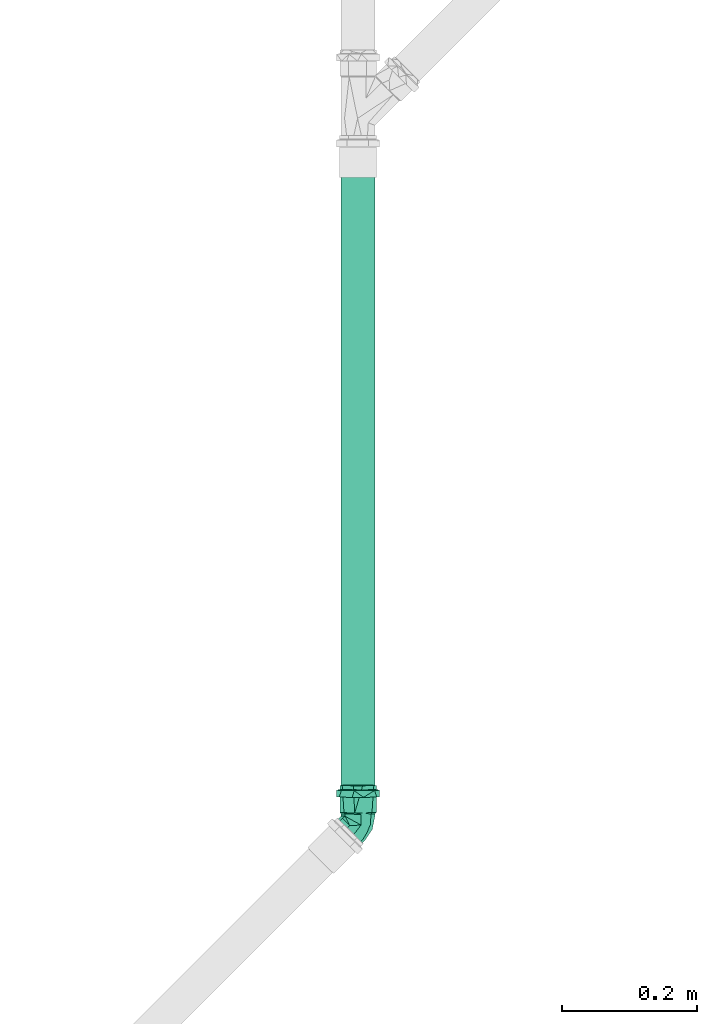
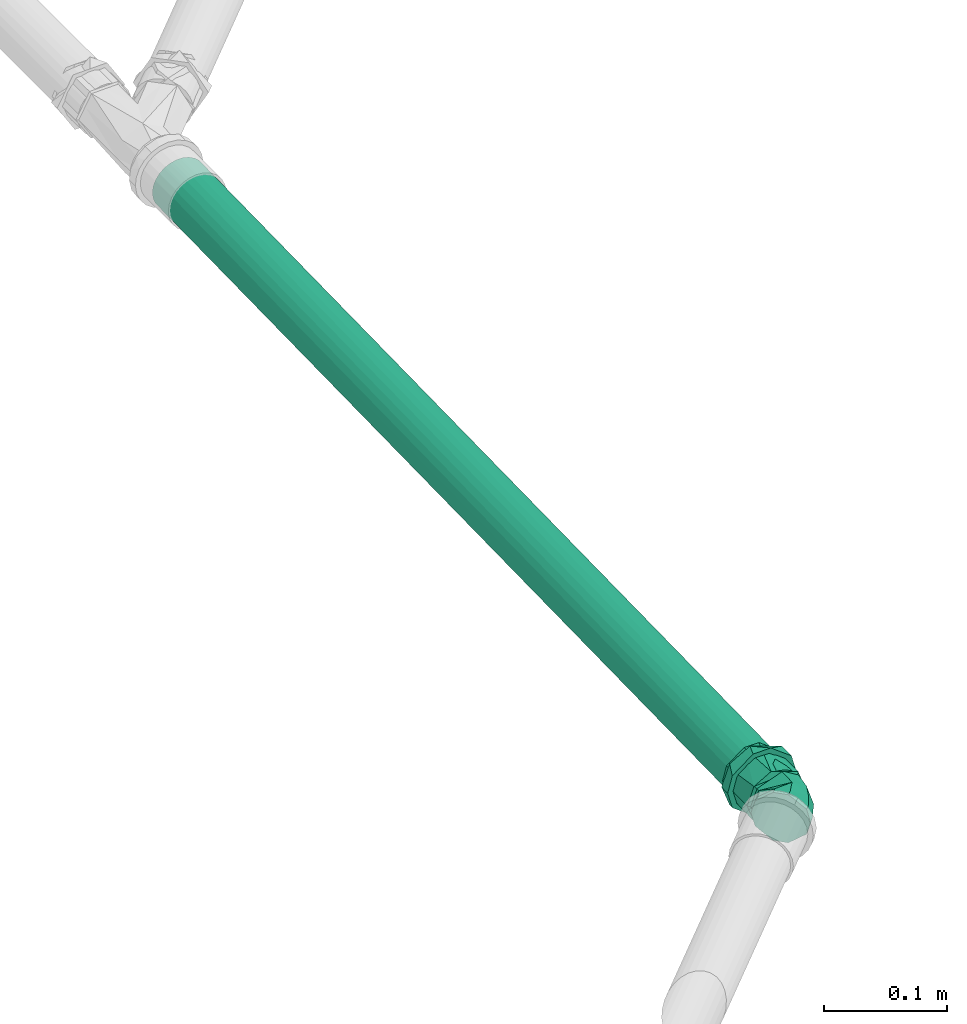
# One storey, part 142 of 589: 1 flow fitting, 1 flow segment.
"""IFC2X3 building model written with IfcOpenShell, lengths in millimetres."""

import ifcopenshell
import ifcopenshell.guid

model = None  # the IFC model being written
_history = None  # IfcOwnerHistory: only IFC2X3 demands one
_inside = {}  # id of a spatial element -> (the spatial element, [elements in it])
_under = {}  # id of a project, library or spatial element -> (it, [spatial elements below it])
_declared = {}  # id of a project -> (the project, [libraries it declares])
_typed = {}  # id of a type object -> (the type object, [elements of that type])
_made_of = {}  # id of a material, layer set ... -> (it, [elements and type objects made of it])


def new_model(schema):
    """Start an empty IFC model of exactly this schema.

    Asked for "IFC4X3", IfcOpenShell would pick the latest addendum, in which some entities
    have other attributes; the version numbers below select the first issue.
    IFC2X3 requires an IfcOwnerHistory on every rooted entity: one is made here for all.
    """
    global model, _history
    if schema == "IFC4X3":
        model = ifcopenshell.file(schema_version=(4, 3, 0, 0))
    else:
        model = ifcopenshell.file(schema=schema)
    _inside.clear()
    _under.clear()
    _declared.clear()
    _typed.clear()
    _made_of.clear()
    _history = None
    if model.schema == "IFC2X3":
        org = make("IfcOrganization", Name="unknown")
        user = make(
            "IfcPersonAndOrganization",
            ThePerson=make("IfcPerson", FamilyName="unknown"),
            TheOrganization=org,
        )
        app = make(
            "IfcApplication",
            ApplicationDeveloper=org,
            Version="unknown",
            ApplicationFullName="unknown",
            ApplicationIdentifier="unknown",
        )
        _history = make(
            "IfcOwnerHistory",
            OwningUser=user,
            OwningApplication=app,
            ChangeAction="ADDED",
            CreationDate=0,
        )
    return model


def make(cls, **values):
    """One entity of the class cls with the attributes given. An attribute that is None is left unset."""
    return model.create_entity(
        cls, **{name: value for name, value in values.items() if value is not None}
    )


def entity(cls, *values):
    """Any entity or typed value of the class cls, its attributes in the order of the schema. None: left unset."""
    e = model.create_entity(cls)
    for i, value in enumerate(values):
        if value is not None:
            e[i] = value
    return e


def rooted(cls, **values):
    """An entity with a GlobalId (a new one), such as an element, a storey or a relation."""
    return make(cls, GlobalId=ifcopenshell.guid.new(), OwnerHistory=_history, **values)


def si_unit(unit_type, name, prefix=None):
    """IfcSIUnit, for example si_unit("LENGTHUNIT", "METRE", prefix="MILLI")."""
    return make("IfcSIUnit", UnitType=unit_type, Prefix=prefix, Name=name)


def converted_unit(unit_type, name, factor, base, dimensions=None, offset=None):
    """IfcConversionBasedUnit, such as the inch: factor (a typed value) times the base unit."""
    return make(
        "IfcConversionBasedUnit"
        if offset is None
        else "IfcConversionBasedUnitWithOffset",
        ConversionOffset=offset,
        Dimensions=None
        if dimensions is None
        else entity("IfcDimensionalExponents", *dimensions),
        UnitType=unit_type,
        Name=name,
        ConversionFactor=make(
            "IfcMeasureWithUnit", ValueComponent=factor, UnitComponent=base
        ),
    )


def derived_unit(unit_type, elements):
    """IfcDerivedUnit: a product of units, each with its exponent."""
    return make(
        "IfcDerivedUnit",
        Elements=[
            make("IfcDerivedUnitElement", Unit=unit, Exponent=power)
            for unit, power in elements
        ],
        UnitType=unit_type,
    )


def assignment(units):
    """IfcUnitAssignment: the units of a project."""
    return None if units is None else make("IfcUnitAssignment", Units=units)


def point(xyz):
    """IfcCartesianPoint."""
    return None if xyz is None else make("IfcCartesianPoint", Coordinates=xyz)


def direction(xyz):
    """IfcDirection."""
    return None if xyz is None else make("IfcDirection", DirectionRatios=xyz)


def frame(location, z_axis=None, x_axis=None):
    """IfcAxis2Placement3D, a coordinate frame: its origin and axes. An axis left out is left unset."""
    return make(
        "IfcAxis2Placement3D",
        Location=point(location),
        Axis=direction(z_axis),
        RefDirection=direction(x_axis),
    )


def frame_2d(location, x_axis=None):
    """IfcAxis2Placement2D, a coordinate frame in the plane: its origin and x axis."""
    return make(
        "IfcAxis2Placement2D", Location=point(location), RefDirection=direction(x_axis)
    )


def origin():
    """The frame at (0, 0, 0) with its axes left unset."""
    return frame((0.0, 0.0, 0.0))


def origin_2d_with_axis():
    """The frame at (0, 0) in the plane with the x axis (1, 0) written out."""
    return frame_2d((0.0, 0.0), x_axis=(1.0, 0.0))


def place(relative_to, where):
    """IfcLocalPlacement: puts the frame where relative to a parent placement (None: the world)."""
    return make(
        "IfcLocalPlacement", PlacementRelTo=relative_to, RelativePlacement=where
    )


def context(
    kind, dimensions, precision=None, world=None, true_north=None, identifier=None
):
    """IfcGeometricRepresentationContext, for example the 3D "Model" context."""
    return make(
        "IfcGeometricRepresentationContext",
        ContextIdentifier=identifier,
        ContextType=kind,
        CoordinateSpaceDimension=dimensions,
        Precision=precision,
        WorldCoordinateSystem=world,
        TrueNorth=true_north,
    )


def subcontext(parent, identifier, kind, view, scale=None):
    """IfcGeometricRepresentationSubContext, for example "Body" below "Model"."""
    return make(
        "IfcGeometricRepresentationSubContext",
        ContextIdentifier=identifier,
        ContextType=kind,
        ParentContext=parent,
        TargetScale=scale,
        TargetView=view,
    )


def project(units=None, contexts=None):
    """IfcProject with its units and contexts."""
    return rooted(
        "IfcProject",
        Name="project",
        RepresentationContexts=contexts,
        UnitsInContext=assignment(units),
    )


def spatial(cls, under=None, at=None, **own):
    """A site, building, storey or space (cls), placed at a placement, below another one or the project."""
    s = rooted(cls, ObjectPlacement=at, **own)
    if under is not None:
        _under.setdefault(under.id(), (under, []))[1].append(s)
    return s


def profile(cls, at=None, kind="AREA", **sizes):
    """A parametric profile (cls). Its sizes go by their IFC names, for example OverallWidth=200.0."""
    return make(cls, ProfileType=kind, Position=at, **sizes)


def circle(**sizes):
    """IfcCircleProfileDef."""
    return profile("IfcCircleProfileDef", **sizes)


def extrude(swept, where, along, depth):
    """IfcExtrudedAreaSolid: the profile swept, set in the frame where, extruded along a direction by depth."""
    return make(
        "IfcExtrudedAreaSolid",
        SweptArea=swept,
        Position=where,
        ExtrudedDirection=direction(along),
        Depth=depth,
    )


def faces_of(points, faces, orient=None, outer=None):
    """IfcFace entities. A face is a list of loops; a loop is a list of indices into points, from 0.

    orient and outer hold one flag for each loop. By default every Orientation is true, the
    first loop of a face is its IfcFaceOuterBound and the others are IfcFaceBound.
    """
    made = []
    for i, loops in enumerate(faces):
        bounds = []
        for j, loop in enumerate(loops):
            is_outer = j == 0 if outer is None else outer[i][j]
            bounds.append(
                make(
                    "IfcFaceOuterBound" if is_outer else "IfcFaceBound",
                    Bound=make("IfcPolyLoop", Polygon=[points[k] for k in loop]),
                    Orientation=True if orient is None else orient[i][j],
                )
            )
        made.append(make("IfcFace", Bounds=bounds))
    return made


def faceted_brep(points, faces, orient=None, outer=None, voids=None):
    """IfcFacetedBrep: a solid bounded by flat faces; with voids (closed shells), ...WithVoids."""
    shared = [point(p) for p in points]
    hull = make("IfcClosedShell", CfsFaces=faces_of(shared, faces, orient, outer))
    if voids is None:
        return make("IfcFacetedBrep", Outer=hull)
    return make(
        "IfcFacetedBrepWithVoids",
        Outer=hull,
        Voids=[
            make(cls, CfsFaces=faces_of(shared, fs, o, b)) for cls, fs, o, b in voids
        ],
    )


def shape(context_of_items, identifier, shape_type, items):
    """IfcShapeRepresentation: the items that make up one representation, for example the "Body"."""
    return make(
        "IfcShapeRepresentation",
        ContextOfItems=context_of_items,
        RepresentationIdentifier=identifier,
        RepresentationType=shape_type,
        Items=items,
    )


def source(mapping_origin, context_of_items, identifier, shape_type, items):
    """IfcRepresentationMap: a shape defined once, which mapped items show again and again."""
    return make(
        "IfcRepresentationMap",
        MappingOrigin=mapping_origin,
        MappedRepresentation=shape(context_of_items, identifier, shape_type, items),
    )


def transform(
    local_origin,
    x_axis=None,
    y_axis=None,
    z_axis=None,
    scale=None,
    scale2=None,
    scale3=None,
    uniform=True,
):
    """IfcCartesianTransformationOperator3D, or its non-uniform kind. x_axis, y_axis, z_axis: its Axis1, 2, 3."""
    if uniform:
        return make(
            "IfcCartesianTransformationOperator3D",
            Axis1=direction(x_axis),
            Axis2=direction(y_axis),
            LocalOrigin=point(local_origin),
            Scale=scale,
            Axis3=direction(z_axis),
        )
    return make(
        "IfcCartesianTransformationOperator3DnonUniform",
        Axis1=direction(x_axis),
        Axis2=direction(y_axis),
        LocalOrigin=point(local_origin),
        Scale=scale,
        Axis3=direction(z_axis),
        Scale2=scale2,
        Scale3=scale3,
    )


def mapped(mapping_source, mapping_target):
    """IfcMappedItem: shows the shape of a source again, moved by a transform."""
    return make(
        "IfcMappedItem", MappingSource=mapping_source, MappingTarget=mapping_target
    )


def material(Name=None, Category=None):
    """IfcMaterial."""
    return make("IfcMaterial", Name=Name, Category=Category)


def made_of(thing, what):
    """Note that an element or type object is made of a material, layer set ...; save() writes the relation."""
    if what is not None:
        _made_of.setdefault(what.id(), (what, []))[1].append(thing)
    return thing


def type_object(cls, material=None, **own):
    """A type object (cls), such as IfcWallType, which elements share."""
    return made_of(rooted(cls, **own), material)


def type_shapes(of_type, sources):
    """Give a type object the sources (RepresentationMaps) that its elements show as mapped items."""
    of_type.RepresentationMaps = sources


def element(
    cls,
    number,
    at=None,
    inside=None,
    cuts=None,
    type_object=None,
    material=None,
    context=None,
    identifier="Body",
    shape_type=None,
    held_by="IfcProductDefinitionShape",
    body=None,
    shapes=None,
    **own,
):
    """One element of the class cls, such as IfcWall. Its Tag is "e" and its number.

    at: its placement. inside: the storey or other place that contains it. cuts: it is an
    opening in that element (IfcRelVoidsElement). A single representation is given by context,
    identifier, shape_type and body (its items); several are given by shapes. held_by: the class
    of the entity that holds the representations. save() writes the other relations.
    """
    e = rooted(cls, Tag="e%d" % number, ObjectPlacement=at, **own)
    if body is not None:
        shapes = [shape(context, identifier, shape_type, body)]
    if shapes is not None:
        e.Representation = make(held_by, Representations=shapes)
    if inside is not None:
        _inside.setdefault(inside.id(), (inside, []))[1].append(e)
    if cuts is not None:
        rooted(
            "IfcRelVoidsElement", RelatingBuildingElement=cuts, RelatedOpeningElement=e
        )
    if type_object is not None:
        _typed.setdefault(type_object.id(), (type_object, []))[1].append(e)
    return made_of(e, material)


def aggregate(whole, parts):
    """IfcRelAggregates: a whole, such as a stair, and the parts it consists of."""
    return rooted("IfcRelAggregates", RelatingObject=whole, RelatedObjects=parts)


def save(model, path):
    """Write the relations noted so far, then the file.

    IfcRelAggregates (storeys below a building ...), IfcRelContainedInSpatialStructure (elements
    in a storey), IfcRelDefinesByType, IfcRelAssociatesMaterial and IfcRelDeclares: one each for
    every whole, place, type object, material and project.
    """
    for whole, parts in _under.values():
        aggregate(whole, parts)
    for where, things in _inside.values():
        rooted(
            "IfcRelContainedInSpatialStructure",
            RelatedElements=things,
            RelatingStructure=where,
        )
    for kind, things in _typed.values():
        rooted("IfcRelDefinesByType", RelatedObjects=things, RelatingType=kind)
    for what, things in _made_of.values():
        rooted("IfcRelAssociatesMaterial", RelatedObjects=things, RelatingMaterial=what)
    for by, libraries in _declared.values():
        rooted("IfcRelDeclares", RelatingContext=by, RelatedDefinitions=libraries)
    model.write(path)


model = new_model("IFC2X3")

# Units and contexts
model_context = context("Model", 3, precision=0.01, world=origin(), true_north=direction((6.123031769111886e-17, 1.0)))
body_context = subcontext(model_context, "Body", "Model", "MODEL_VIEW")
ifc_project = project(units=[si_unit("LENGTHUNIT", "METRE", prefix="MILLI"), si_unit("AREAUNIT", "SQUARE_METRE"), si_unit("VOLUMEUNIT", "CUBIC_METRE"), converted_unit("PLANEANGLEUNIT", "DEGREE", entity("IfcRatioMeasure", 0.017453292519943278), si_unit("PLANEANGLEUNIT", "RADIAN"), dimensions=[0, 0, 0, 0, 0, 0, 0]), si_unit("MASSUNIT", "GRAM", prefix="KILO"), derived_unit("MASSDENSITYUNIT", [(si_unit("MASSUNIT", "GRAM", prefix="KILO"), 1), (si_unit("LENGTHUNIT", "METRE"), -3)]), derived_unit("IONCONCENTRATIONUNIT", [(si_unit("MASSUNIT", "GRAM", prefix="KILO"), 1), (si_unit("LENGTHUNIT", "METRE"), -3)]), derived_unit("MOMENTOFINERTIAUNIT", [(si_unit("LENGTHUNIT", "METRE"), 4)]), si_unit("TIMEUNIT", "SECOND"), si_unit("FREQUENCYUNIT", "HERTZ"), si_unit("THERMODYNAMICTEMPERATUREUNIT", "DEGREE_CELSIUS"), derived_unit("THERMALTRANSMITTANCEUNIT", [(si_unit("MASSUNIT", "GRAM", prefix="KILO"), 1), (si_unit("THERMODYNAMICTEMPERATUREUNIT", "KELVIN"), -1), (si_unit("TIMEUNIT", "SECOND"), -3)]), derived_unit("THERMALCONDUCTANCEUNIT", [(si_unit("MASSUNIT", "GRAM", prefix="KILO"), 1), (si_unit("THERMODYNAMICTEMPERATUREUNIT", "KELVIN"), -1), (si_unit("TIMEUNIT", "SECOND"), -3), (si_unit("LENGTHUNIT", "METRE"), 1)]), derived_unit("VOLUMETRICFLOWRATEUNIT", [(si_unit("LENGTHUNIT", "METRE"), 3), (si_unit("TIMEUNIT", "SECOND"), -1)]), derived_unit("MASSFLOWRATEUNIT", [(si_unit("MASSUNIT", "GRAM", prefix="KILO"), 1), (si_unit("TIMEUNIT", "SECOND"), -1)]), derived_unit("ROTATIONALFREQUENCYUNIT", [(si_unit("TIMEUNIT", "SECOND"), -1)]), si_unit("ELECTRICCURRENTUNIT", "AMPERE"), si_unit("ELECTRICVOLTAGEUNIT", "VOLT"), si_unit("POWERUNIT", "WATT"), si_unit("FORCEUNIT", "NEWTON", prefix="KILO"), si_unit("ILLUMINANCEUNIT", "LUX"), si_unit("LUMINOUSFLUXUNIT", "LUMEN"), si_unit("LUMINOUSINTENSITYUNIT", "CANDELA"), derived_unit("USERDEFINED", [(si_unit("MASSUNIT", "GRAM", prefix="KILO"), -1), (si_unit("LENGTHUNIT", "METRE"), -2), (si_unit("TIMEUNIT", "SECOND"), 3), (si_unit("LUMINOUSFLUXUNIT", "LUMEN"), 1)]), derived_unit("USERDEFINED", [(si_unit("MASSUNIT", "GRAM", prefix="KILO"), 1), (si_unit("TIMEUNIT", "SECOND"), -3), (si_unit("LENGTHUNIT", "METRE"), 3), (si_unit("ELECTRICCURRENTUNIT", "AMPERE"), -2)]), derived_unit("SOUNDPOWERUNIT", [(si_unit("MASSUNIT", "GRAM", prefix="KILO"), 1), (si_unit("TIMEUNIT", "SECOND"), -3), (si_unit("LENGTHUNIT", "METRE"), 2)]), derived_unit("SOUNDPRESSUREUNIT", [(si_unit("MASSUNIT", "GRAM", prefix="KILO"), 1), (si_unit("LENGTHUNIT", "METRE"), -1), (si_unit("TIMEUNIT", "SECOND"), -2)]), derived_unit("LINEARVELOCITYUNIT", [(si_unit("LENGTHUNIT", "METRE"), 1), (si_unit("TIMEUNIT", "SECOND"), -1)]), si_unit("PRESSUREUNIT", "PASCAL"), derived_unit("USERDEFINED", [(si_unit("MASSUNIT", "GRAM", prefix="KILO"), 1), (si_unit("LENGTHUNIT", "METRE"), -2), (si_unit("TIMEUNIT", "SECOND"), -2)]), derived_unit("LINEARFORCEUNIT", [(si_unit("MASSUNIT", "GRAM", prefix="KILO"), 1), (si_unit("TIMEUNIT", "SECOND"), -2)]), derived_unit("PLANARFORCEUNIT", [(si_unit("MASSUNIT", "GRAM", prefix="KILO"), 1), (si_unit("LENGTHUNIT", "METRE"), -1), (si_unit("TIMEUNIT", "SECOND"), -2)]), derived_unit("SPECIFICHEATCAPACITYUNIT", [(si_unit("THERMODYNAMICTEMPERATUREUNIT", "KELVIN"), -1), (si_unit("LENGTHUNIT", "METRE"), 2), (si_unit("TIMEUNIT", "SECOND"), -2)]), derived_unit("HEATINGVALUEUNIT", [(si_unit("LENGTHUNIT", "METRE"), 2), (si_unit("TIMEUNIT", "SECOND"), -2)]), derived_unit("VAPORPERMEABILITYUNIT", [(si_unit("LENGTHUNIT", "METRE"), -1), (si_unit("TIMEUNIT", "SECOND"), 1)]), derived_unit("DYNAMICVISCOSITYUNIT", [(si_unit("MASSUNIT", "GRAM", prefix="KILO"), 1), (si_unit("TIMEUNIT", "SECOND"), -1), (si_unit("LENGTHUNIT", "METRE"), -1)]), derived_unit("THERMALEXPANSIONCOEFFICIENTUNIT", [(si_unit("THERMODYNAMICTEMPERATUREUNIT", "KELVIN"), -1)]), derived_unit("MODULUSOFELASTICITYUNIT", [(si_unit("MASSUNIT", "GRAM", prefix="KILO"), 1), (si_unit("LENGTHUNIT", "METRE"), -1), (si_unit("TIMEUNIT", "SECOND"), -2)]), derived_unit("ISOTHERMALMOISTURECAPACITYUNIT", [(si_unit("LENGTHUNIT", "METRE"), 3), (si_unit("MASSUNIT", "GRAM", prefix="KILO"), -1)]), derived_unit("MOISTUREDIFFUSIVITYUNIT", [(si_unit("TIMEUNIT", "SECOND"), -1), (si_unit("LENGTHUNIT", "METRE"), 2)])], contexts=[model_context])

# Site, building, storey
site_placement = place(None, origin())
site = spatial("IfcSite", under=ifc_project, at=site_placement, Name="Default", CompositionType="ELEMENT")
building_placement = place(site_placement, origin())
building = spatial("IfcBuilding", under=site, at=building_placement, CompositionType="ELEMENT")
storey_placement = place(building_placement, frame((0.0, 0.0, 100.0)))
storey = spatial("IfcBuildingStorey", under=building, at=storey_placement, Name="TÉRREO", CompositionType="ELEMENT", Elevation=100.0)

# Flow segment
pipe_segment_type = type_object("IfcPipeSegmentType", Name="Tipos de tubos:PVC Esgoto Série Normal", PredefinedType="NOTDEFINED")
flow_segment_placement = place(storey_placement, origin())
element("IfcFlowSegment", 1, at=flow_segment_placement, inside=storey, type_object=pipe_segment_type, Name="Tipos de tubos:PVC Esgoto Série Normal", ObjectType="Tipos de tubos:PVC Esgoto Série Normal", context=body_context, shape_type="SweptSolid", body=[
    extrude(circle(Radius=25.0, at=origin_2d_with_axis()), frame((10266.454903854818, -10003.354001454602, -297.708808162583), z_axis=(0.0, 0.9998000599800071, 0.019996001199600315), x_axis=(-1.0, 0.0, 0.0)), (0.0, 0.0, 1.0), 968.9273788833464),
])

# Flow fitting
ifc_material = material(Name="PVC Série Normal")
pipe_fitting_type = type_object("IfcPipeFittingType", Name="PVC Esgoto_Joelho 45_90_Rodrigo MEP:a. Série Normal", PredefinedType="NOTDEFINED", material=ifc_material)
shared_shape = source(origin(), body_context, "Body", "Brep", [
    faceted_brep([(-15.967030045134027, -21.650635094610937, -12.500000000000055), (-15.967030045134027, -25.0, 0.0), (-15.967030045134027, -21.650635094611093, 12.499999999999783), (-15.967030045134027, -6.470476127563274, 24.148145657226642), (-15.967030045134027, 6.470476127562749, 24.14814565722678), (-15.967030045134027, 21.650635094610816, 12.500000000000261), (-15.967030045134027, 25.0, 0.0), (-15.967030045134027, 21.650635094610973, -12.499999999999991), (-15.967030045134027, 6.4704761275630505, -24.1481456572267), (-15.967030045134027, -6.4704761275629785, -24.14814565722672), (-10.767030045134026, 6.4704761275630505, -24.1481456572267), (-10.767030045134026, 21.650635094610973, -12.499999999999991), (-10.767030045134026, 25.0, 0.0), (-10.767030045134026, 21.650635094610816, 12.500000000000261), (-10.767030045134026, 6.470476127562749, 24.14814565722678), (-10.767030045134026, -6.470476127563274, 24.148145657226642), (-10.767030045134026, -21.650635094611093, 12.499999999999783), (-10.767030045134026, -25.0, 0.0), (-10.767030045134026, -21.650635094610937, -12.500000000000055), (-10.767030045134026, -6.4704761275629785, -24.14814565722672)], [[[0, 1, 2, 3, 4, 5, 6, 7, 8, 9]], [[10, 11, 12, 13, 14, 15, 16, 17, 18, 19]], [[1, 17, 16, 2]], [[2, 16, 15, 3]], [[15, 14, 4, 3]], [[4, 14, 13, 5]], [[5, 13, 12, 6]], [[6, 12, 11, 7]], [[7, 11, 10, 8]], [[10, 19, 9, 8]], [[9, 19, 18, 0]], [[0, 18, 17, 1]]]),
    faceted_brep([(32.49893906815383, 22.607125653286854, -26.079997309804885), (22.61789019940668, 32.49144831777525, -26.079997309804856), (21.702978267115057, 33.406663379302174, -30.90962644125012), (33.41385100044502, 21.691910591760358, -30.90962644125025), (44.08973158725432, 11.012492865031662, -13.500000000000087), (7.965742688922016, 47.14845038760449, -16.0), (11.027097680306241, 44.08608110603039, -13.499999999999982), (8.46969404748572, 46.64433205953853, 0.0), (4.934745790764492, 50.18045151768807, 0.0), (11.027097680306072, 44.08608110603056, 13.499999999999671), (7.965742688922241, 47.14845038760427, 16.0), (22.617890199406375, 32.49144831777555, 26.079997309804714), (21.702978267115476, 33.406663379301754, 30.909626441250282), (32.49893906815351, 22.607125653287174, 26.07999730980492), (33.41385100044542, 21.69191059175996, 30.909626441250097), (44.08973158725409, 11.01249286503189, 13.500000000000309), (47.15108657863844, 7.950123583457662, 16.0), (50.18208347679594, 4.9181224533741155, 0.0), (46.64713522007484, 8.454241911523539, 0.0), (47.15108657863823, 7.950123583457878, -16.0), (57.254322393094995, 11.988018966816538, 0.0), (51.96057869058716, 17.283516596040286, 20.570569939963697), (30.698989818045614, 38.55214987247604, 31.51307341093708), (17.297080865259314, 51.95849915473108, 20.56442050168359), (12.006984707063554, 57.25034803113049, 0.0), (17.297080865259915, 51.95849915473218, -20.564420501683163), (38.55672846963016, 30.691807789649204, -31.51446740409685), (51.96057869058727, 17.28351659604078, -20.57056993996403), (15.541932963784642, 53.714228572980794, 0.0), (16.461324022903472, 54.633315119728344, 0.0), (16.820634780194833, 52.43510309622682, 6.749999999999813), (18.099336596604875, 51.15597761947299, 13.49999999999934), (20.99703472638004, 48.257319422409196, 16.64499932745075), (23.894732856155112, 45.35866122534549, 19.789998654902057), (26.792430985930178, 42.4600030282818, 22.93499798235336), (29.690129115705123, 39.561344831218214, 26.07999730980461), (34.630653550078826, 34.619183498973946, 26.079997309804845), (39.571177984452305, 29.677022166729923, 26.079997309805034), (42.46887611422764, 26.778363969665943, 22.93499798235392), (45.36657424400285, 23.87970577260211, 19.789998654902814), (48.264272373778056, 20.981047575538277, 16.644999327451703), (51.16197050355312, 18.082389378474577, 13.500000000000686), (52.440672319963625, 16.80326390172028, 6.7500000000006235), (54.6387651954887, 16.44322497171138, 0.0), (53.719374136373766, 15.524138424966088, 0.0), (52.44067231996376, 16.80326390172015, -6.750000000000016), (51.161970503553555, 18.082389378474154, -13.499999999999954), (48.26427237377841, 20.98104757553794, -16.644999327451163), (45.36657424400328, 23.879705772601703, -19.78999865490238), (42.468876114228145, 26.778363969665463, -22.9349979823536), (39.571177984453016, 29.677022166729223, -26.079997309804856), (34.6306535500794, 34.6191834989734, -26.079997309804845), (29.690129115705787, 39.56134483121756, -26.079997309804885), (26.792430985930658, 42.46000302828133, -22.93499798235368), (23.894732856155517, 45.358661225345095, -19.78999865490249), (20.99703472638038, 48.25731942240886, -16.64499932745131), (18.09933659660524, 51.15597761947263, -13.50000000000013), (16.82063478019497, 52.43510309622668, -6.75000000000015), (52.40700587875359, 18.675723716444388, 8.67561489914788), (50.175246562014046, 20.908222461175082, 17.351229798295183), (45.690789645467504, 25.394165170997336, 19.661005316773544), (41.20633272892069, 29.88010788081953, 21.97078083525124), (36.721875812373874, 34.36605059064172, 24.280556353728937), (32.23741889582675, 38.851993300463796, 26.590331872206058), (20.927920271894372, 50.16523899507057, 17.356418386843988), (18.694622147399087, 52.39927705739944, 8.678209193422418), (26.582669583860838, 44.50861614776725, 21.973375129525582), (18.694622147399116, 52.39927705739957, -8.678209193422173), (20.9279202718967, 50.165238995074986, -17.35641838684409), (25.412786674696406, 45.67888666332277, -19.664602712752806), (29.897653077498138, 41.19253433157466, -21.97278703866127), (34.38251948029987, 36.70618199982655, -24.28097136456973), (38.86738588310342, 32.21982966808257, -26.58915569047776), (50.1752465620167, 20.908222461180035, -17.351229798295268), (52.40700587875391, 18.67572371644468, -8.675614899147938), (44.521316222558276, 26.564026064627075, -21.970192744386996)], [[[0, 1, 2]], [[2, 3, 0]], [[4, 0, 3]], [[5, 2, 1]], [[1, 6, 5]], [[6, 7, 5]], [[8, 5, 7]], [[8, 7, 9]], [[10, 8, 9]], [[9, 11, 10]], [[11, 12, 10]], [[13, 12, 11]], [[12, 13, 14]], [[13, 15, 14]], [[16, 14, 15]], [[16, 15, 17]], [[17, 15, 18]], [[18, 4, 19]], [[17, 18, 19]], [[3, 19, 4]], [[20, 21, 16]], [[20, 16, 17]], [[16, 21, 14]], [[21, 22, 14]], [[12, 22, 23]], [[10, 23, 24]], [[23, 10, 12]], [[10, 24, 8]], [[22, 12, 14]], [[24, 25, 5]], [[24, 5, 8]], [[5, 25, 2]], [[25, 26, 2]], [[3, 26, 27]], [[19, 27, 20]], [[27, 19, 3]], [[19, 20, 17]], [[26, 3, 2]], [[9, 7, 28, 29, 30, 31]], [[11, 9, 31, 32, 33, 34, 35]], [[11, 35, 36, 37, 13]], [[15, 13, 37, 38, 39, 40, 41]], [[18, 15, 41, 42, 43, 44]], [[4, 18, 44, 43, 45, 46]], [[0, 4, 46, 47, 48, 49, 50]], [[0, 50, 51, 52, 1]], [[6, 1, 52, 53, 54, 55, 56]], [[7, 6, 56, 57, 29, 28]], [[20, 43, 58, 59]], [[59, 21, 20]], [[21, 59, 60, 61, 62, 63]], [[21, 63, 22]], [[23, 64, 65, 29]], [[23, 22, 64]], [[24, 23, 29]], [[22, 63, 66, 64]], [[25, 29, 67, 68]], [[29, 25, 24]], [[25, 68, 26]], [[26, 68, 69, 70, 71, 72]], [[20, 73, 74, 43]], [[27, 72, 75, 73]], [[27, 73, 20]], [[72, 27, 26]], [[41, 40, 39, 59]], [[31, 65, 64]], [[61, 60, 38]], [[38, 60, 39]], [[63, 62, 36]], [[66, 63, 35]], [[32, 31, 64, 33]], [[36, 62, 37]], [[36, 35, 63]], [[38, 37, 61]], [[34, 33, 66, 35]], [[65, 30, 29]], [[42, 58, 43]], [[60, 59, 39]], [[37, 62, 61]], [[58, 41, 59]], [[66, 33, 64]], [[42, 41, 58]], [[65, 31, 30]], [[56, 55, 54, 68]], [[46, 74, 73]], [[70, 69, 53]], [[53, 69, 54]], [[72, 71, 51]], [[75, 72, 50]], [[47, 46, 73, 48]], [[51, 71, 52]], [[51, 50, 72]], [[53, 52, 70]], [[49, 48, 75, 50]], [[74, 45, 43]], [[57, 67, 29]], [[69, 68, 54]], [[52, 71, 70]], [[67, 56, 68]], [[75, 48, 73]], [[57, 56, 67]], [[74, 46, 45]]]),
    faceted_brep([(15.866824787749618, 6.71244969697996, 24.148145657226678), (26.599040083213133, -4.023321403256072, 12.49999999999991), (28.96700640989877, -6.392072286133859, 0.0), (26.59904008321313, -4.023321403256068, -12.499999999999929), (15.866824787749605, 6.7124496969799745, -24.148145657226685), (6.71770546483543, 15.864600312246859, -24.148145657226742), (-4.014509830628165, 26.60037141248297, -12.50000000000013), (-6.3824761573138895, 28.969122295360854, 0.0), (-4.014509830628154, 26.60037141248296, 12.500000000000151), (6.71770546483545, 15.86460031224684, 24.148145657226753), (27.4111138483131, -7.94744951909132, 0.0), (23.27822622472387, -3.813192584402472, -16.06595351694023), (30.380985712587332, -7.806520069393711, 0.0), (5.635977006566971, 16.94668716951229, -21.97078083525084), (14.604890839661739, 7.9748017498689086, -26.590331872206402), (6.669126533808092, 12.801410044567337, -24.620677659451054), (25.914389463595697, -3.3384439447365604, -17.35641838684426), (-3.8026314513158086, 23.276637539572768, -16.070757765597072), (-3.332936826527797, 25.918572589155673, -17.35122979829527), (14.973676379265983, 4.494108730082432, -20.34331558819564), (-7.9383687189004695, 27.413745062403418, 0.0), (-7.796455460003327, 30.38357007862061, 0.0), (-3.8026314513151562, 23.27663753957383, 16.07075776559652), (-3.332936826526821, 25.91857258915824, 17.35122979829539), (16.944656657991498, 5.634260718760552, 21.972787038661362), (7.974923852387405, 14.606965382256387, 26.58915569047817), (12.807984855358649, 6.66051779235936, 24.619588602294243), (23.27822622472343, -3.8131925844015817, 16.065953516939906), (25.914389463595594, -3.3384439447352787, 17.356418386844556), (4.502676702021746, 14.968577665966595, 20.345173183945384), (34.640696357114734, 44.51027239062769, -26.07999730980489), (35.006661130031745, 44.14418636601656, -24.14814565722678), (44.15578045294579, 34.99203575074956, -24.148145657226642), (23.049903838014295, 56.10490517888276, -13.499999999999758), (44.52174522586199, 34.62594972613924, -26.07999730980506), (24.274445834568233, 54.879957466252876, -12.500000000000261), (21.906479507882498, 57.24870834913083, 0.0), (20.49250020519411, 58.66315613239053, 0.0), (24.27444583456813, 54.87995746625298, 12.499999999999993), (23.0499038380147, 56.104905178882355, 13.50000000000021), (35.00666113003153, 44.144186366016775, 24.148145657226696), (34.640696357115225, 44.5102723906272, 26.07999730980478), (44.15578045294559, 34.992035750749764, 24.14814565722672), (44.52174522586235, 34.625949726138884, 26.079997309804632), (54.88799574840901, 24.25626465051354, 12.500000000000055), (56.11253774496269, 23.031316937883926, 13.499999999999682), (58.66994137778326, 20.473065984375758, 0.0), (57.25596207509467, 21.88751376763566, 0.0), (56.11253774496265, 23.03131693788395, -13.500000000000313), (54.88799574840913, 24.256264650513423, -12.499999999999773), (25.289442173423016, -10.068418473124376, 0.0), (21.154302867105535, -5.931909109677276, 16.069749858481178), (10.68377913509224, 4.542083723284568, 24.62022085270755), (2.3793594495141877, 12.849254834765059, 20.344851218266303), (-5.925060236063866, 21.156425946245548, 16.069481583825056), (-10.060040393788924, 25.292776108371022, 0.0), (-5.925060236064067, 21.156425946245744, -16.06948158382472), (4.5453788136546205, 10.68251782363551, -24.620160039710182), (21.154302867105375, -5.931909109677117, -16.069749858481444), (12.849840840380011, 2.375304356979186, -20.344954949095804), (-10.767030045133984, -21.65063509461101, 12.499999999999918), (-10.767030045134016, -6.470476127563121, 24.148145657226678), (-10.767030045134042, 6.470476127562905, 24.14814565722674), (-10.767030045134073, 21.650635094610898, 12.500000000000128), (-10.76703004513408, 25.0, 0.0), (-10.767030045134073, 21.65063509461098, -12.499999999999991), (-10.767030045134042, 6.470476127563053, -24.1481456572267), (-10.767030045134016, -6.470476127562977, -24.14814565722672), (-10.767030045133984, -21.650635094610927, -12.500000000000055), (-10.767030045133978, -25.0, 0.0), (11.656201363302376, -14.144371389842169, 15.023571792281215), (1.6913455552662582, -4.6924143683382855, 23.963323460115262), (0.6213662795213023, -18.676600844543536, 14.858628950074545), (-3.6046282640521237, -23.575618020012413, 0.0), (8.745922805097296, -21.11947231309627, 0.0), (-10.384423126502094, 25.07608877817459, 0.0), (19.21699707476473, -14.124805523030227, 0.0), (1.6262309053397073, -4.6803495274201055, -23.97388545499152), (0.6210080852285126, -18.681175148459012, -14.852749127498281), (11.682599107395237, -14.100315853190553, -15.057518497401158)], [[[0, 1, 2, 3, 4, 5, 6, 7, 8, 9]], [[10, 11, 12]], [[13, 14, 15]], [[16, 12, 11]], [[13, 17, 18]], [[17, 13, 15]], [[16, 19, 14]], [[17, 20, 18]], [[18, 20, 21]], [[19, 16, 11]], [[14, 19, 15]], [[20, 22, 23]], [[24, 25, 26]], [[23, 21, 20]], [[24, 27, 28]], [[27, 24, 26]], [[23, 29, 25]], [[27, 10, 12]], [[28, 27, 12]], [[29, 23, 22]], [[25, 29, 26]], [[30, 31, 32]], [[31, 30, 33]], [[32, 34, 30]], [[33, 35, 31]], [[33, 36, 35]], [[36, 33, 37]], [[38, 36, 37]], [[38, 37, 39]], [[39, 40, 38]], [[39, 41, 40]], [[40, 41, 42]], [[43, 42, 41]], [[43, 44, 42]], [[44, 43, 45]], [[46, 44, 45]], [[47, 44, 46]], [[48, 47, 46]], [[48, 49, 47]], [[49, 48, 34]], [[34, 32, 49]], [[46, 45, 12]], [[45, 28, 12]], [[28, 45, 43]], [[43, 25, 24, 28]], [[23, 41, 39]], [[21, 39, 37]], [[41, 23, 25]], [[23, 39, 21]], [[41, 25, 43]], [[37, 33, 21]], [[33, 18, 21]], [[18, 33, 30]], [[30, 14, 13, 18]], [[16, 34, 48]], [[12, 48, 46]], [[34, 16, 14]], [[16, 48, 12]], [[34, 14, 30]], [[3, 2, 47, 49]], [[4, 3, 49, 32]], [[32, 31, 5, 4]], [[6, 5, 31, 35]], [[7, 6, 35, 36]], [[8, 7, 36, 38]], [[9, 8, 38, 40]], [[40, 42, 0, 9]], [[1, 0, 42, 44]], [[2, 1, 44, 47]], [[10, 27, 50]], [[27, 51, 50]], [[51, 27, 26]], [[51, 26, 52]], [[52, 29, 53]], [[22, 54, 53]], [[22, 20, 54]], [[26, 29, 52]], [[54, 20, 55]], [[29, 22, 53]], [[20, 17, 56]], [[20, 56, 55]], [[56, 17, 57]], [[58, 59, 19]], [[17, 15, 57]], [[15, 59, 57]], [[58, 19, 11]], [[11, 50, 58]], [[50, 11, 10]], [[59, 15, 19]], [[60, 61, 62, 63, 64, 65, 66, 67, 68, 69]], [[70, 71, 72]], [[61, 71, 62]], [[60, 69, 73]], [[61, 72, 71]], [[70, 72, 74]], [[63, 62, 54]], [[64, 63, 75]], [[61, 60, 72]], [[73, 74, 72]], [[70, 76, 51]], [[52, 70, 51]], [[52, 71, 70]], [[76, 70, 74]], [[75, 63, 55]], [[60, 73, 72]], [[63, 54, 55]], [[54, 62, 71]], [[76, 50, 51]], [[71, 52, 53, 54]], [[67, 77, 78]], [[79, 57, 59, 58]], [[65, 64, 75]], [[66, 65, 56]], [[78, 73, 68]], [[67, 78, 68]], [[74, 73, 78]], [[66, 57, 77]], [[55, 56, 65]], [[76, 79, 58]], [[73, 69, 68]], [[57, 66, 56]], [[74, 78, 79]], [[67, 66, 77]], [[74, 79, 76]], [[57, 79, 77]], [[58, 50, 76]], [[79, 78, 77]], [[65, 75, 55]]]),
])
type_shapes(pipe_fitting_type, [shared_shape])
flow_fitting_placement = place(storey_placement, frame((10266.454903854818, -10019.317839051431, -298.0280849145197), z_axis=(-0.008282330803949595, -0.019995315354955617, 0.9997657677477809), x_axis=(0.7069654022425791, 0.7069654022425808, 0.019996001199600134)))
element("IfcFlowFitting", 2, at=flow_fitting_placement, inside=storey, type_object=pipe_fitting_type, material=ifc_material, Name="PVC Esgoto_Joelho 45_90_Rodrigo MEP:a. Série Normal", ObjectType="PVC Esgoto_Joelho 45_90_Rodrigo MEP:a. Série Normal", context=body_context, shape_type="MappedRepresentation", body=[
    mapped(shared_shape, transform((0.0, 0.0, 0.0), scale=1.0)),
])

save(model, "model.ifc")
